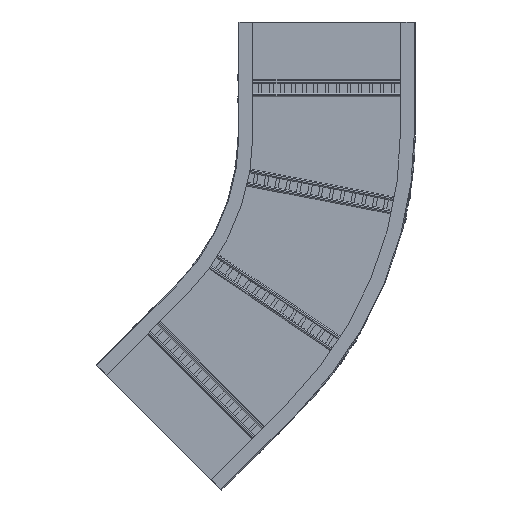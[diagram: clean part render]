
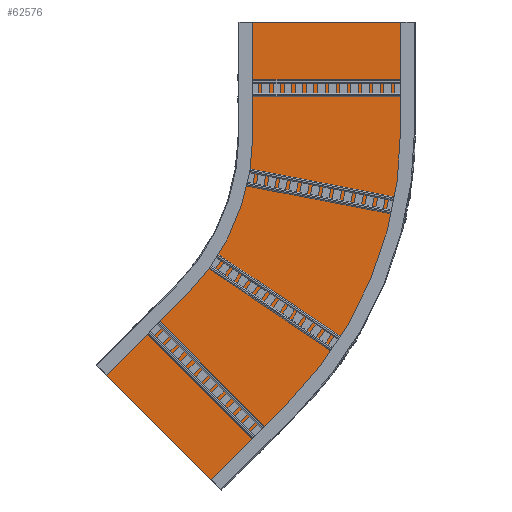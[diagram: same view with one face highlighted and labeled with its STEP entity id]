
A CAD part, front view. The second image highlights one B-rep face of the part: STEP entity #62576.
In plain terms, the highlighted planar face has unit normal (0, -1, 0).
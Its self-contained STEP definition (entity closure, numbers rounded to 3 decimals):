
#1865 = VERTEX_POINT ( 'NONE', #43272 ) ;
#2608 = AXIS2_PLACEMENT_3D ( 'NONE', #46062, #19148, #23462 ) ;
#3834 = CARTESIAN_POINT ( 'NONE',  ( -394., -1., 253.65 ) ) ;
#7094 = DIRECTION ( 'NONE',  ( -1., 0., 0. ) ) ;
#9075 = VERTEX_POINT ( 'NONE', #19970 ) ;
#10510 = ORIENTED_EDGE ( 'NONE', *, *, #40993, .F. ) ;
#13499 = CARTESIAN_POINT ( 'NONE',  ( 0., -1., 253.65 ) ) ;
#14604 = CARTESIAN_POINT ( 'NONE',  ( -437.646, -1., 1056.57 ) ) ;
#19148 = DIRECTION ( 'NONE',  ( 0., 1., 0. ) ) ;
#19970 = CARTESIAN_POINT ( 'NONE',  ( -258.288, -1., 877.212 ) ) ;
#21680 = DIRECTION ( 'NONE',  ( -0.707, 0., 0.707 ) ) ;
#21995 = EDGE_LOOP ( 'NONE', ( #22943, #84519, #25295, #63322, #10510, #82106, #64735, #66261 ) ) ;
#22943 = ORIENTED_EDGE ( 'NONE', *, *, #32570, .F. ) ;
#23200 = CARTESIAN_POINT ( 'NONE',  ( -716.246, -1., 777.97 ) ) ;
#23462 = DIRECTION ( 'NONE',  ( 0., 0., 1. ) ) ;
#24639 = LINE ( 'NONE', #45374, #44351 ) ;
#25225 = DIRECTION ( 'NONE',  ( 0.707, 0., 0.707 ) ) ;
#25295 = ORIENTED_EDGE ( 'NONE', *, *, #45223, .F. ) ;
#26417 = VECTOR ( 'NONE', #21680, 1000. ) ;
#27090 = VERTEX_POINT ( 'NONE', #84935 ) ;
#27149 = FACE_OUTER_BOUND ( 'NONE', #21995, .T. ) ;
#28386 = EDGE_CURVE ( 'NONE', #31189, #1865, #70524, .T. ) ;
#28476 = LINE ( 'NONE', #23200, #26417 ) ;
#28764 = VECTOR ( 'NONE', #30155, 1000. ) ;
#30004 = DIRECTION ( 'NONE',  ( 0., 0., 1. ) ) ;
#30081 = DIRECTION ( 'NONE',  ( 0., -1., 0. ) ) ;
#30155 = DIRECTION ( 'NONE',  ( 0., 0., 1. ) ) ;
#30193 = CARTESIAN_POINT ( 'NONE',  ( -881.85, -1., 253.65 ) ) ;
#31189 = VERTEX_POINT ( 'NONE', #3834 ) ;
#32570 = EDGE_CURVE ( 'NONE', #33908, #27090, #56434, .T. ) ;
#32632 = CARTESIAN_POINT ( 'NONE',  ( -394., -1., 253.65 ) ) ;
#33908 = VERTEX_POINT ( 'NONE', #34802 ) ;
#34171 = CARTESIAN_POINT ( 'NONE',  ( -394., -1., 0. ) ) ;
#34802 = CARTESIAN_POINT ( 'NONE',  ( 0., -1., 253.65 ) ) ;
#35011 = LINE ( 'NONE', #32632, #28764 ) ;
#35320 = VERTEX_POINT ( 'NONE', #65524 ) ;
#37305 = EDGE_CURVE ( 'NONE', #9075, #33908, #68274, .T. ) ;
#39891 = AXIS2_PLACEMENT_3D ( 'NONE', #82885, #82788, #82773 ) ;
#40411 = CARTESIAN_POINT ( 'NONE',  ( -437.646, -1., 1056.57 ) ) ;
#40993 = EDGE_CURVE ( 'NONE', #1865, #35320, #28476, .T. ) ;
#41155 = DIRECTION ( 'NONE',  ( 0.707, 0., -0.707 ) ) ;
#43272 = CARTESIAN_POINT ( 'NONE',  ( -536.888, -1., 598.612 ) ) ;
#43395 = AXIS2_PLACEMENT_3D ( 'NONE', #30193, #30081, #30004 ) ;
#44351 = VECTOR ( 'NONE', #25225, 1000. ) ;
#44533 = VERTEX_POINT ( 'NONE', #67950 ) ;
#45223 = EDGE_CURVE ( 'NONE', #45897, #9075, #56131, .T. ) ;
#45374 = CARTESIAN_POINT ( 'NONE',  ( -437.646, -1., 1056.57 ) ) ;
#45897 = VERTEX_POINT ( 'NONE', #14604 ) ;
#46062 = CARTESIAN_POINT ( 'NONE',  ( -881.85, -1., 253.65 ) ) ;
#47757 = EDGE_CURVE ( 'NONE', #44533, #31189, #35011, .T. ) ;
#55690 = EDGE_CURVE ( 'NONE', #35320, #45897, #24639, .T. ) ;
#56131 = LINE ( 'NONE', #40411, #58221 ) ;
#56434 = LINE ( 'NONE', #13499, #73973 ) ;
#58221 = VECTOR ( 'NONE', #41155, 1000. ) ;
#62576 = ADVANCED_FACE ( 'NONE', ( #27149 ), #79276, .F. ) ;
#63322 = ORIENTED_EDGE ( 'NONE', *, *, #55690, .F. ) ;
#64735 = ORIENTED_EDGE ( 'NONE', *, *, #47757, .F. ) ;
#65524 = CARTESIAN_POINT ( 'NONE',  ( -716.246, -1., 777.97 ) ) ;
#66261 = ORIENTED_EDGE ( 'NONE', *, *, #80836, .F. ) ;
#66469 = LINE ( 'NONE', #34171, #81846 ) ;
#67950 = CARTESIAN_POINT ( 'NONE',  ( -394., -1., 0. ) ) ;
#68274 = CIRCLE ( 'NONE', #39891, 881.85 ) ;
#70524 = CIRCLE ( 'NONE', #43395, 487.85 ) ;
#73973 = VECTOR ( 'NONE', #77131, 1000. ) ;
#77131 = DIRECTION ( 'NONE',  ( 0., 0., -1. ) ) ;
#79276 = PLANE ( 'NONE',  #2608 ) ;
#80836 = EDGE_CURVE ( 'NONE', #27090, #44533, #66469, .T. ) ;
#81846 = VECTOR ( 'NONE', #7094, 1000. ) ;
#82106 = ORIENTED_EDGE ( 'NONE', *, *, #28386, .F. ) ;
#82773 = DIRECTION ( 'NONE',  ( 0., 0., 1. ) ) ;
#82788 = DIRECTION ( 'NONE',  ( 0., 1., 0. ) ) ;
#82885 = CARTESIAN_POINT ( 'NONE',  ( -881.85, -1., 253.65 ) ) ;
#84519 = ORIENTED_EDGE ( 'NONE', *, *, #37305, .F. ) ;
#84935 = CARTESIAN_POINT ( 'NONE',  ( 0., -1., 0. ) ) ;
